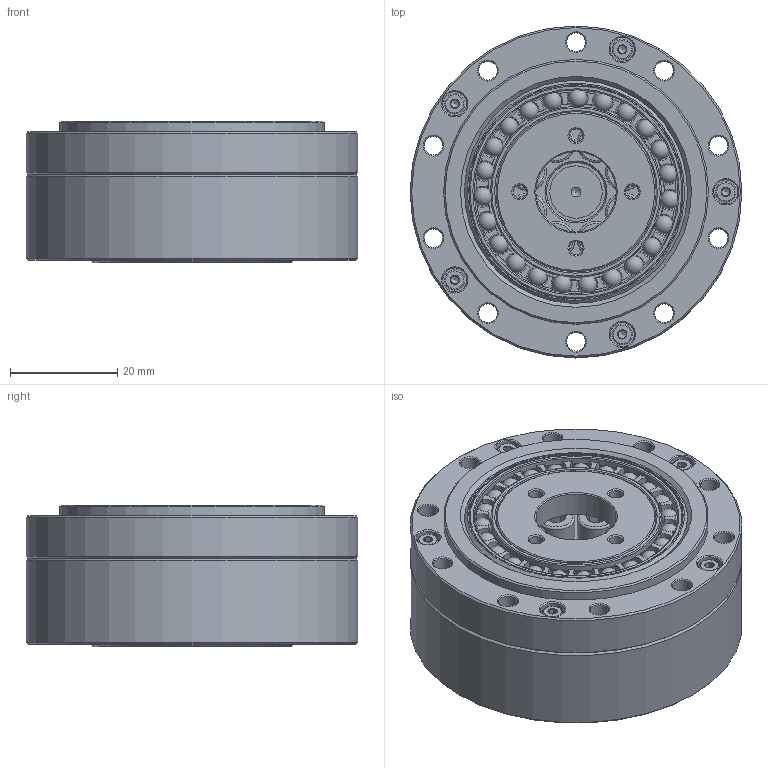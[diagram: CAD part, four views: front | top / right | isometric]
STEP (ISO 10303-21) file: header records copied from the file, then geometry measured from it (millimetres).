
FILE_DESCRIPTION(/* description */ (''),/* implementation_level */ '2;1');
FILE_NAME(/* name */ 'LSD-17-XX-U-I-φ15(无键).stp',/* time_stamp */ '2023-07-03T09:23:51+08:00',/* author */ (''),/* organization */ (''),/* preprocessor_version */ 'ST-DEVELOPER v16.7',/* originating_system */ 'SIEMENS PLM Software NX 12.0',/* authorisation */ '');
FILE_SCHEMA (('AUTOMOTIVE_DESIGN { 1 0 10303 214 3 1 1 1 }'));
Length unit declared in the file: millimetre
Products named in the file (12): EB304006-17KD-01; EB304006-17KC-46; TC-38x47x4; O-50x0.5; GB-T70.1-2000,M4x8; GB-T70.1-2000,M2x10; 发生器LSD-17-φ15无键; 柔轮LSD-17; 刚轮LSD-17; EB304006-17KD; 交叉轴承LSD-17; LSD-17-XX-U-I-φ15(无键)
Assembly tree (22 placements, depth 3):
  LSD-17-XX-U-I-φ15(无键)
    交叉轴承LSD-17
      TC-38x47x4
    刚轮LSD-17
    柔轮LSD-17
    EB304006-17KD
      EB304006-17KC-46
      EB304006-17KD-01
    发生器LSD-17-φ15无键
    GB-T70.1-2000,M2x10  x5
    GB-T70.1-2000,M4x8  x8
    O-50x0.5
Bounding box: 62 x 62 x 26.5 mm (x, y, z)
Volume: 57479.5 mm3; surface area: 43189.5 mm2
Topology: 46 solids, 46 shells, 838 faces, 1870 edges, 1117 vertices
Faces by surface type: plane 287, cone 253, cylinder 178, torus 96, sphere 23, revolution 1
Full cylindrical faces by diameter (mm): 1.6 x5, 1.886 x5, 2.5 x9, 3.3 x8, 3.5 x20, 3.8 x5, 3.838 x8, 4.2 x8, 4.5 x13, 7 x8, 9.8 x1, 11 x2, 14 x1, 15 x1, 26 x1, 29 x1, 30 x2, 31.88 x2, 32 x1, 33 x1, 34 x1, 37.3 x1, 37.6 x1, 37.857 x1, 38 x2, 38.16 x2, 40 x2, 40.58 x1, 41.545 x1, 41.703 x1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
Entity records: 15264 total; most frequent: CARTESIAN_POINT 3648, DIRECTION 2511, ORIENTED_EDGE 1724, AXIS2_PLACEMENT_3D 1191, EDGE_LOOP 928, EDGE_CURVE 862, FACE_BOUND 801, VERTEX_POINT 737
